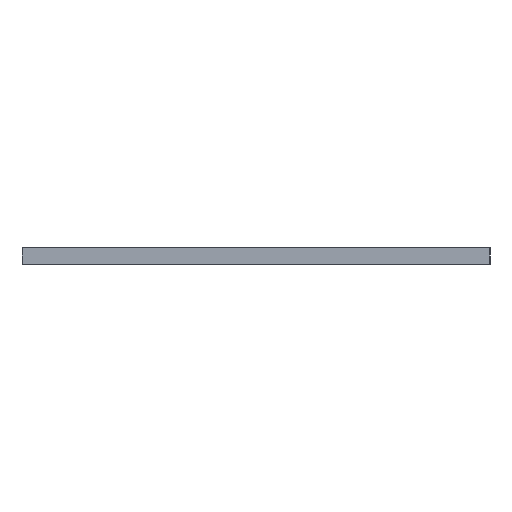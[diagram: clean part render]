
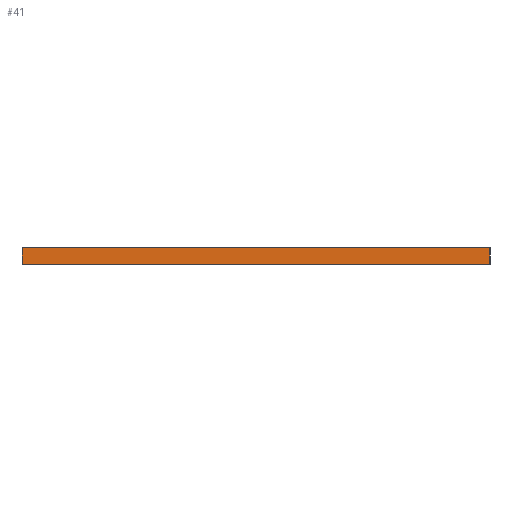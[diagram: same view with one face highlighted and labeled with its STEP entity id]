
A CAD part, left-side view. The second image highlights one B-rep face of the part: STEP entity #41.
In plain terms, the highlighted planar face has unit normal (-1, 0, 0).
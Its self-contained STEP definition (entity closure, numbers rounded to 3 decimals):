
#41=ADVANCED_FACE('',(#53),#357,.T.);
#53=FACE_OUTER_BOUND('',#65,.T.);
#65=EDGE_LOOP('',(#95,#96,#97,#98));
#95=ORIENTED_EDGE('',*,*,#251,.T.);
#96=ORIENTED_EDGE('',*,*,#252,.T.);
#97=ORIENTED_EDGE('',*,*,#253,.T.);
#98=ORIENTED_EDGE('',*,*,#254,.T.);
#143=PCURVE('',#357,#191);
#144=PCURVE('',#357,#192);
#145=PCURVE('',#357,#193);
#146=PCURVE('',#357,#194);
#150=PCURVE('',#358,#198);
#156=PCURVE('',#360,#204);
#162=PCURVE('',#361,#210);
#163=PCURVE('',#362,#211);
#191=DEFINITIONAL_REPRESENTATION('',(#300),#586);
#192=DEFINITIONAL_REPRESENTATION('',(#302),#586);
#193=DEFINITIONAL_REPRESENTATION('',(#304),#586);
#194=DEFINITIONAL_REPRESENTATION('',(#306),#586);
#198=DEFINITIONAL_REPRESENTATION('',(#313),#586);
#204=DEFINITIONAL_REPRESENTATION('',(#323),#586);
#210=DEFINITIONAL_REPRESENTATION('',(#330),#586);
#211=DEFINITIONAL_REPRESENTATION('',(#331),#586);
#227=SURFACE_CURVE('',#299,(#143,#162),.PCURVE_S1.);
#228=SURFACE_CURVE('',#301,(#144,#150),.PCURVE_S1.);
#229=SURFACE_CURVE('',#303,(#145,#163),.PCURVE_S1.);
#230=SURFACE_CURVE('',#305,(#146,#156),.PCURVE_S1.);
#251=EDGE_CURVE('',#343,#344,#227,.T.);
#252=EDGE_CURVE('',#344,#345,#228,.T.);
#253=EDGE_CURVE('',#345,#346,#229,.T.);
#254=EDGE_CURVE('',#346,#343,#230,.T.);
#299=B_SPLINE_CURVE_WITH_KNOTS('',1,(#513,#514),.UNSPECIFIED.,.F.,.F.,(2,
2),(-200.,-150.),.UNSPECIFIED.);
#300=B_SPLINE_CURVE_WITH_KNOTS('',1,(#515,#516),.UNSPECIFIED.,.F.,.F.,(2,
2),(-200.,-150.),.UNSPECIFIED.);
#301=B_SPLINE_CURVE_WITH_KNOTS('',1,(#517,#518),.UNSPECIFIED.,.F.,.F.,(2,
2),(0.,400.),.UNSPECIFIED.);
#302=B_SPLINE_CURVE_WITH_KNOTS('',1,(#519,#520),.UNSPECIFIED.,.F.,.F.,(2,
2),(0.,400.),.UNSPECIFIED.);
#303=B_SPLINE_CURVE_WITH_KNOTS('',1,(#521,#522),.UNSPECIFIED.,.F.,.F.,(2,
2),(150.,200.),.UNSPECIFIED.);
#304=B_SPLINE_CURVE_WITH_KNOTS('',1,(#523,#524),.UNSPECIFIED.,.F.,.F.,(2,
2),(150.,200.),.UNSPECIFIED.);
#305=B_SPLINE_CURVE_WITH_KNOTS('',1,(#525,#526),.UNSPECIFIED.,.F.,.F.,(2,
2),(-400.,0.),.UNSPECIFIED.);
#306=B_SPLINE_CURVE_WITH_KNOTS('',1,(#527,#528),.UNSPECIFIED.,.F.,.F.,(2,
2),(-400.,0.),.UNSPECIFIED.);
#313=B_SPLINE_CURVE_WITH_KNOTS('',1,(#541,#542),.UNSPECIFIED.,.F.,.F.,(2,
2),(0.,400.),.UNSPECIFIED.);
#323=B_SPLINE_CURVE_WITH_KNOTS('',1,(#561,#562),.UNSPECIFIED.,.F.,.F.,(2,
2),(-400.,0.),.UNSPECIFIED.);
#330=B_SPLINE_CURVE_WITH_KNOTS('',1,(#575,#576),.UNSPECIFIED.,.F.,.F.,(2,
2),(-200.,-150.),.UNSPECIFIED.);
#331=B_SPLINE_CURVE_WITH_KNOTS('',1,(#577,#578),.UNSPECIFIED.,.F.,.F.,(2,
2),(150.,200.),.UNSPECIFIED.);
#343=VERTEX_POINT('',#505);
#344=VERTEX_POINT('',#506);
#345=VERTEX_POINT('',#507);
#346=VERTEX_POINT('',#508);
#357=PLANE('',#389);
#358=PLANE('',#390);
#360=PLANE('',#392);
#361=PLANE('',#393);
#362=PLANE('',#394);
#389=AXIS2_PLACEMENT_3D('',#499,#404,$);
#390=AXIS2_PLACEMENT_3D('',#500,#405,$);
#392=AXIS2_PLACEMENT_3D('',#502,#407,$);
#393=AXIS2_PLACEMENT_3D('',#503,#408,$);
#394=AXIS2_PLACEMENT_3D('',#504,#409,$);
#404=DIRECTION('',(-1.,0.,0.));
#405=DIRECTION('',(0.,0.,1.));
#407=DIRECTION('',(0.,0.,-1.));
#408=DIRECTION('',(0.,-1.,0.));
#409=DIRECTION('',(0.,1.,0.));
#499=CARTESIAN_POINT('',(-850.,-585.,140.));
#500=CARTESIAN_POINT('',(-850.,-585.,180.));
#502=CARTESIAN_POINT('',(-810.,-585.,140.));
#503=CARTESIAN_POINT('',(-810.,-585.,140.));
#504=CARTESIAN_POINT('',(-810.,545.,140.));
#505=CARTESIAN_POINT('',(-850.,-585.,140.));
#506=CARTESIAN_POINT('',(-850.,-585.,180.));
#507=CARTESIAN_POINT('',(-850.,545.,180.));
#508=CARTESIAN_POINT('',(-850.,545.,140.));
#513=CARTESIAN_POINT('',(-850.,-585.,140.));
#514=CARTESIAN_POINT('',(-850.,-585.,180.));
#515=CARTESIAN_POINT('',(-200.,0.));
#516=CARTESIAN_POINT('',(-150.,0.));
#517=CARTESIAN_POINT('',(-850.,-585.,180.));
#518=CARTESIAN_POINT('',(-850.,545.,180.));
#519=CARTESIAN_POINT('',(-150.,0.));
#520=CARTESIAN_POINT('',(-150.,400.));
#521=CARTESIAN_POINT('',(-850.,545.,180.));
#522=CARTESIAN_POINT('',(-850.,545.,140.));
#523=CARTESIAN_POINT('',(-150.,400.));
#524=CARTESIAN_POINT('',(-200.,400.));
#525=CARTESIAN_POINT('',(-850.,545.,140.));
#526=CARTESIAN_POINT('',(-850.,-585.,140.));
#527=CARTESIAN_POINT('',(-200.,400.));
#528=CARTESIAN_POINT('',(-200.,0.));
#541=CARTESIAN_POINT('',(-150.,0.));
#542=CARTESIAN_POINT('',(-150.,400.));
#561=CARTESIAN_POINT('',(0.,400.));
#562=CARTESIAN_POINT('',(0.,0.));
#575=CARTESIAN_POINT('',(0.,0.));
#576=CARTESIAN_POINT('',(40.,0.));
#577=CARTESIAN_POINT('',(0.,40.));
#578=CARTESIAN_POINT('',(0.,0.));
#586=(
GEOMETRIC_REPRESENTATION_CONTEXT(2)
PARAMETRIC_REPRESENTATION_CONTEXT()
REPRESENTATION_CONTEXT('pspace','')
);
